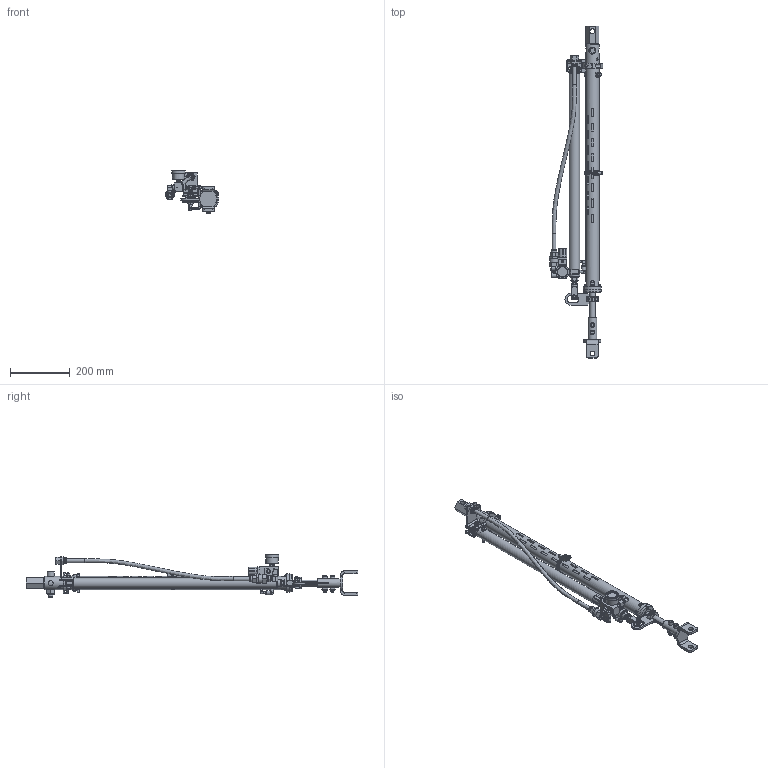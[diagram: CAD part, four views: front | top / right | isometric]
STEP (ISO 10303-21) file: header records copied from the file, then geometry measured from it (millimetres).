
FILE_DESCRIPTION(/* description */ (''),/* implementation_level */ '2;1');
FILE_NAME(/* name */ 'ATA2800-24AR.001.stp',/* time_stamp */ '2024-11-27T15:28:15-05:00',/* author */ (''),/* organization */ (''),/* preprocessor_version */ 'ST-DEVELOPER v19.4',/* originating_system */ 'SIEMENS PLM Software NX2306.9120',/* authorisation */ '');
FILE_SCHEMA (('AUTOMOTIVE_DESIGN { 1 0 10303 214 3 1 1 1 }'));
Products named in the file (1): ATA2800-24AR.001
Bounding box: 180.65 x 1114.01 x 142.89 mm (x, y, z)
Volume: 1596215.7 mm3; surface area: 743997.3 mm2
Topology: 321 solids, 321 shells, 2295 faces, 5781 edges, 3729 vertices
Faces by surface type: plane 969, cylinder 523, cone 284, sphere 259, torus 144, bspline 59, extrusion 57
Full cylindrical faces by diameter (mm): 2.5 x2, 3 x4, 3.175 x2, 3.5 x1, 4.763 x6, 5 x14, 5.004 x1, 5.5 x4, 6 x4, 6.1 x2, 6.35 x7, 7.112 x2, 7.569 x4, 7.62 x2, 7.85 x2, 7.938 x11, 8.001 x2, 8.46 x1, 8.5 x4, 8.636 x9, 8.731 x2, 9 x1, 9.017 x1, 9.5 x4, 9.525 x5, 10 x16, 10.008 x1, 10.084 x11, 10.287 x1, 10.356 x1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
Entity records: 123280 total; most frequent: CARTESIAN_POINT 59095, ORIENTED_EDGE 9066, DIRECTION 8971, EDGE_CURVE 4533, AXIS2_PLACEMENT_3D 3440, VERTEX_POINT 3359, EDGE_LOOP 2802, PRESENTATION_STYLE_ASSIGNMENT 2404
